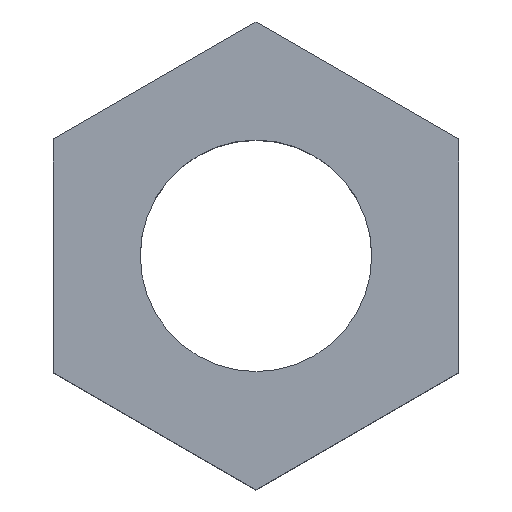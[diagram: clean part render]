
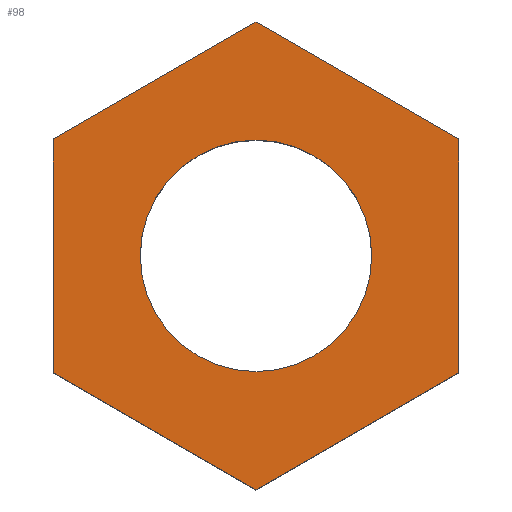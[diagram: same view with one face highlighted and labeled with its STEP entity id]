
A CAD part, top view. The second image highlights one B-rep face of the part: STEP entity #98.
In plain terms, the highlighted planar face has unit normal (0, 0, 1).
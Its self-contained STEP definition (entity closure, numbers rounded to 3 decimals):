
#8 = DIRECTION ( 'NONE',  ( 1., 0., 0. ) ) ;
#14 = EDGE_CURVE ( 'NONE', #109, #75, #140, .T. ) ;
#22 = CIRCLE ( 'NONE', #239, 2. ) ;
#26 = CARTESIAN_POINT ( 'NONE',  ( 2., 0., 3.2 ) ) ;
#30 = CARTESIAN_POINT ( 'NONE',  ( 3.5, -2.021, 3.2 ) ) ;
#33 = DIRECTION ( 'NONE',  ( 0., 0., 1. ) ) ;
#36 = CARTESIAN_POINT ( 'NONE',  ( -3.5, 2.021, 3.2 ) ) ;
#37 = DIRECTION ( 'NONE',  ( -0.866, -0.5, 0. ) ) ;
#42 = CARTESIAN_POINT ( 'NONE',  ( 0., 4.041, 3.2 ) ) ;
#45 = VECTOR ( 'NONE', #101, 1000. ) ;
#56 = VERTEX_POINT ( 'NONE', #121 ) ;
#64 = CARTESIAN_POINT ( 'NONE',  ( 0., 0., 3.2 ) ) ;
#67 = DIRECTION ( 'NONE',  ( 0., 1., 0. ) ) ;
#71 = AXIS2_PLACEMENT_3D ( 'NONE', #64, #258, #263 ) ;
#72 = LINE ( 'NONE', #185, #164 ) ;
#75 = VERTEX_POINT ( 'NONE', #26 ) ;
#85 = EDGE_LOOP ( 'NONE', ( #345, #173, #105, #371, #231, #138 ) ) ;
#90 = EDGE_CURVE ( 'NONE', #56, #255, #149, .T. ) ;
#95 = CARTESIAN_POINT ( 'NONE',  ( -3.5, -2.021, 3.2 ) ) ;
#96 = CARTESIAN_POINT ( 'NONE',  ( 0., 0., 3.2 ) ) ;
#98 = ADVANCED_FACE ( 'NONE', ( #374, #356 ), #204, .T. ) ;
#101 = DIRECTION ( 'NONE',  ( -0.866, 0.5, 0. ) ) ;
#105 = ORIENTED_EDGE ( 'NONE', *, *, #289, .T. ) ;
#109 = VERTEX_POINT ( 'NONE', #115 ) ;
#113 = ORIENTED_EDGE ( 'NONE', *, *, #268, .F. ) ;
#115 = CARTESIAN_POINT ( 'NONE',  ( -2., 0., 3.2 ) ) ;
#121 = CARTESIAN_POINT ( 'NONE',  ( -3.5, -2.021, 3.2 ) ) ;
#128 = CARTESIAN_POINT ( 'NONE',  ( 3.5, 2.021, 3.2 ) ) ;
#130 = CARTESIAN_POINT ( 'NONE',  ( 3.5, -2.021, 3.2 ) ) ;
#136 = VERTEX_POINT ( 'NONE', #30 ) ;
#138 = ORIENTED_EDGE ( 'NONE', *, *, #259, .T. ) ;
#140 = CIRCLE ( 'NONE', #201, 2. ) ;
#149 = LINE ( 'NONE', #95, #353 ) ;
#159 = LINE ( 'NONE', #42, #294 ) ;
#164 = VECTOR ( 'NONE', #267, 1000. ) ;
#173 = ORIENTED_EDGE ( 'NONE', *, *, #276, .T. ) ;
#174 = DIRECTION ( 'NONE',  ( 1., 0., 0. ) ) ;
#183 = LINE ( 'NONE', #128, #45 ) ;
#185 = CARTESIAN_POINT ( 'NONE',  ( 0., -4.041, 3.2 ) ) ;
#190 = CARTESIAN_POINT ( 'NONE',  ( 0., 0., 3.2 ) ) ;
#191 = VECTOR ( 'NONE', #304, 1000. ) ;
#192 = CARTESIAN_POINT ( 'NONE',  ( 0., -4.041, 3.2 ) ) ;
#201 = AXIS2_PLACEMENT_3D ( 'NONE', #96, #33, #174 ) ;
#202 = VERTEX_POINT ( 'NONE', #36 ) ;
#204 = PLANE ( 'NONE',  #71 ) ;
#211 = CARTESIAN_POINT ( 'NONE',  ( -3.5, 2.021, 3.2 ) ) ;
#231 = ORIENTED_EDGE ( 'NONE', *, *, #90, .T. ) ;
#232 = EDGE_CURVE ( 'NONE', #202, #56, #326, .T. ) ;
#239 = AXIS2_PLACEMENT_3D ( 'NONE', #190, #324, #8 ) ;
#243 = EDGE_CURVE ( 'NONE', #136, #313, #332, .T. ) ;
#246 = CARTESIAN_POINT ( 'NONE',  ( 0., 4.041, 3.2 ) ) ;
#249 = EDGE_LOOP ( 'NONE', ( #306, #113 ) ) ;
#255 = VERTEX_POINT ( 'NONE', #192 ) ;
#258 = DIRECTION ( 'NONE',  ( 0., 0., 1. ) ) ;
#259 = EDGE_CURVE ( 'NONE', #255, #136, #72, .T. ) ;
#263 = DIRECTION ( 'NONE',  ( 1., 0., 0. ) ) ;
#267 = DIRECTION ( 'NONE',  ( 0.866, 0.5, 0. ) ) ;
#268 = EDGE_CURVE ( 'NONE', #75, #109, #22, .T. ) ;
#269 = CARTESIAN_POINT ( 'NONE',  ( 3.5, 2.021, 3.2 ) ) ;
#276 = EDGE_CURVE ( 'NONE', #313, #314, #183, .T. ) ;
#289 = EDGE_CURVE ( 'NONE', #314, #202, #159, .T. ) ;
#291 = DIRECTION ( 'NONE',  ( 0.866, -0.5, 0. ) ) ;
#294 = VECTOR ( 'NONE', #37, 1000. ) ;
#304 = DIRECTION ( 'NONE',  ( 0., -1., 0. ) ) ;
#306 = ORIENTED_EDGE ( 'NONE', *, *, #14, .F. ) ;
#313 = VERTEX_POINT ( 'NONE', #269 ) ;
#314 = VERTEX_POINT ( 'NONE', #246 ) ;
#324 = DIRECTION ( 'NONE',  ( 0., 0., 1. ) ) ;
#325 = VECTOR ( 'NONE', #67, 1000. ) ;
#326 = LINE ( 'NONE', #211, #191 ) ;
#332 = LINE ( 'NONE', #130, #325 ) ;
#345 = ORIENTED_EDGE ( 'NONE', *, *, #243, .T. ) ;
#353 = VECTOR ( 'NONE', #291, 1000. ) ;
#356 = FACE_BOUND ( 'NONE', #249, .T. ) ;
#371 = ORIENTED_EDGE ( 'NONE', *, *, #232, .T. ) ;
#374 = FACE_OUTER_BOUND ( 'NONE', #85, .T. ) ;
